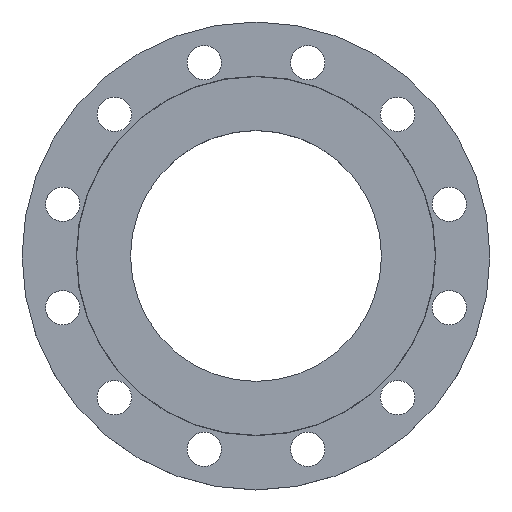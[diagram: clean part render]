
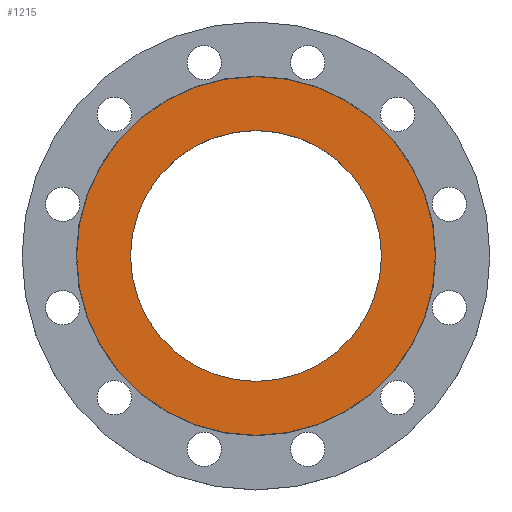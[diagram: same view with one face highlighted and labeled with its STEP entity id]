
A CAD part, top view. The second image highlights one B-rep face of the part: STEP entity #1215.
In plain terms, the highlighted planar face has unit normal (0, 0, 1).
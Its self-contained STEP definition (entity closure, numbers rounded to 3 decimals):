
#14 = EDGE_CURVE ( 'NONE', #1202, #1238, #366, .T. ) ;
#18 = AXIS2_PLACEMENT_3D ( 'NONE', #818, #863, #813 ) ;
#47 = CIRCLE ( 'NONE', #851, 172.5 ) ;
#83 = CARTESIAN_POINT ( 'NONE',  ( 172.5, 0., 0. ) ) ;
#91 = CARTESIAN_POINT ( 'NONE',  ( 120.67, 0., 0. ) ) ;
#118 = DIRECTION ( 'NONE',  ( 1., 0., 0. ) ) ;
#119 = DIRECTION ( 'NONE',  ( 0., 0., 1. ) ) ;
#120 = CARTESIAN_POINT ( 'NONE',  ( 0., 0., 0. ) ) ;
#121 = PLANE ( 'NONE',  #931 ) ;
#122 = FACE_OUTER_BOUND ( 'NONE', #1080, .T. ) ;
#123 = FACE_BOUND ( 'NONE', #944, .T. ) ;
#147 = CARTESIAN_POINT ( 'NONE',  ( -172.5, 0., 0. ) ) ;
#149 = CARTESIAN_POINT ( 'NONE',  ( -120.67, 0., 0. ) ) ;
#366 = CIRCLE ( 'NONE', #18, 120.67 ) ;
#414 = DIRECTION ( 'NONE',  ( -1., 0., 0. ) ) ;
#415 = DIRECTION ( 'NONE',  ( 0., 0., -1. ) ) ;
#416 = CARTESIAN_POINT ( 'NONE',  ( 0., 0., 0. ) ) ;
#421 = DIRECTION ( 'NONE',  ( 1., 0., 0. ) ) ;
#423 = DIRECTION ( 'NONE',  ( 0., 0., 1. ) ) ;
#424 = CARTESIAN_POINT ( 'NONE',  ( 0., 0., 0. ) ) ;
#523 = CIRCLE ( 'NONE', #525, 120.67 ) ;
#525 = AXIS2_PLACEMENT_3D ( 'NONE', #424, #423, #421 ) ;
#557 = EDGE_CURVE ( 'NONE', #1205, #1247, #974, .T. ) ;
#665 = DIRECTION ( 'NONE',  ( -1., 0., 0. ) ) ;
#667 = DIRECTION ( 'NONE',  ( 0., 0., -1. ) ) ;
#669 = CARTESIAN_POINT ( 'NONE',  ( 0., 0., 0. ) ) ;
#813 = DIRECTION ( 'NONE',  ( 1., 0., 0. ) ) ;
#818 = CARTESIAN_POINT ( 'NONE',  ( 0., 0., 0. ) ) ;
#851 = AXIS2_PLACEMENT_3D ( 'NONE', #416, #415, #414 ) ;
#863 = DIRECTION ( 'NONE',  ( 0., 0., 1. ) ) ;
#886 = EDGE_CURVE ( 'NONE', #1238, #1202, #523, .T. ) ;
#898 = EDGE_CURVE ( 'NONE', #1247, #1205, #47, .T. ) ;
#931 = AXIS2_PLACEMENT_3D ( 'NONE', #120, #119, #118 ) ;
#944 = EDGE_LOOP ( 'NONE', ( #1023, #1024 ) ) ;
#974 = CIRCLE ( 'NONE', #1156, 172.5 ) ;
#1023 = ORIENTED_EDGE ( 'NONE', *, *, #886, .F. ) ;
#1024 = ORIENTED_EDGE ( 'NONE', *, *, #14, .F. ) ;
#1025 = ORIENTED_EDGE ( 'NONE', *, *, #557, .F. ) ;
#1026 = ORIENTED_EDGE ( 'NONE', *, *, #898, .F. ) ;
#1080 = EDGE_LOOP ( 'NONE', ( #1025, #1026 ) ) ;
#1156 = AXIS2_PLACEMENT_3D ( 'NONE', #669, #667, #665 ) ;
#1202 = VERTEX_POINT ( 'NONE', #149 ) ;
#1205 = VERTEX_POINT ( 'NONE', #147 ) ;
#1215 = ADVANCED_FACE ( 'NONE', ( #123, #122 ), #121, .T. ) ;
#1238 = VERTEX_POINT ( 'NONE', #91 ) ;
#1247 = VERTEX_POINT ( 'NONE', #83 ) ;
